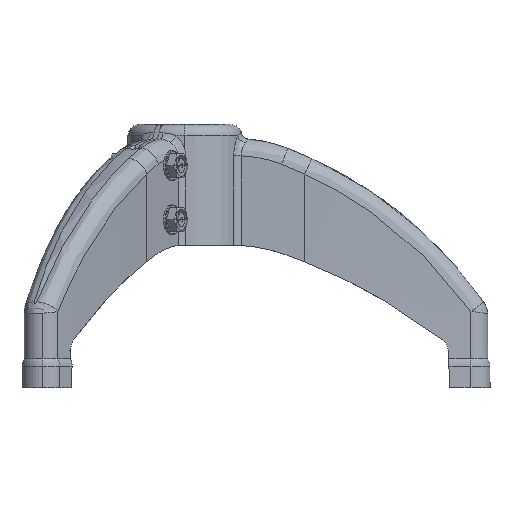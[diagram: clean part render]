
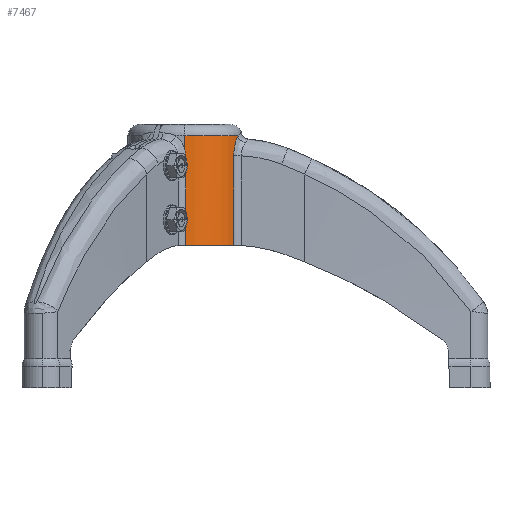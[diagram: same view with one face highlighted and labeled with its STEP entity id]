
A CAD part, left-side view. The second image highlights one B-rep face of the part: STEP entity #7467.
In plain terms, the highlighted cylindrical face has radius 40 mm (diameter 80 mm), a partial arc.
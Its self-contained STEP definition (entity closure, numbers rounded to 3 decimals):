
#123 = DIRECTION ( 'NONE',  ( 0., 0., -1. ) ) ;
#236 = CARTESIAN_POINT ( 'NONE',  ( -14.853, -37.144, 176.575 ) ) ;
#257 = LINE ( 'NONE', #6505, #2036 ) ;
#310 = CARTESIAN_POINT ( 'NONE',  ( -17.151, -36.137, 173.879 ) ) ;
#529 = CARTESIAN_POINT ( 'NONE',  ( 0., 0., 185. ) ) ;
#616 = EDGE_CURVE ( 'NONE', #8768, #4829, #13259, .T. ) ;
#884 = CARTESIAN_POINT ( 'NONE',  ( -17.681, -35.88, 173.055 ) ) ;
#1012 = DIRECTION ( 'NONE',  ( 0., 0., 1. ) ) ;
#1051 = CARTESIAN_POINT ( 'NONE',  ( -40., 0., 185. ) ) ;
#1703 = ORIENTED_EDGE ( 'NONE', *, *, #7142, .T. ) ;
#2036 = VECTOR ( 'NONE', #123, 1000. ) ;
#2131 = VERTEX_POINT ( 'NONE', #6476 ) ;
#2359 = CARTESIAN_POINT ( 'NONE',  ( -14.36, -37.334, 177. ) ) ;
#2386 = ORIENTED_EDGE ( 'NONE', *, *, #4994, .T. ) ;
#2422 = ORIENTED_EDGE ( 'NONE', *, *, #11551, .T. ) ;
#2811 = CIRCLE ( 'NONE', #9119, 40. ) ;
#2908 = CARTESIAN_POINT ( 'NONE',  ( -40., -0.188, 166.283 ) ) ;
#2936 = CARTESIAN_POINT ( 'NONE',  ( -20.435, -34.386, 163.604 ) ) ;
#2961 = EDGE_CURVE ( 'NONE', #4829, #5639, #3892, .T. ) ;
#3007 = CARTESIAN_POINT ( 'NONE',  ( -18.617, -35.405, 171.329 ) ) ;
#3182 = CARTESIAN_POINT ( 'NONE',  ( -39.997, -0.504, 162.927 ) ) ;
#3195 = CARTESIAN_POINT ( 'NONE',  ( -14.36, -37.334, 177. ) ) ;
#3892 = CIRCLE ( 'NONE', #7927, 40. ) ;
#4021 = CARTESIAN_POINT ( 'NONE',  ( -39.997, -0.504, 163.605 ) ) ;
#4048 = CARTESIAN_POINT ( 'NONE',  ( -20.173, -34.541, 166.268 ) ) ;
#4284 = VERTEX_POINT ( 'NONE', #9930 ) ;
#4829 = VERTEX_POINT ( 'NONE', #3195 ) ;
#4994 = EDGE_CURVE ( 'NONE', #2131, #11116, #257, .T. ) ;
#5156 = CARTESIAN_POINT ( 'NONE',  ( -17.595, -35.922, 173.195 ) ) ;
#5303 = CARTESIAN_POINT ( 'NONE',  ( -20.435, -34.386, 162.927 ) ) ;
#5508 = CARTESIAN_POINT ( 'NONE',  ( -15.314, -36.955, 176.124 ) ) ;
#5571 = CARTESIAN_POINT ( 'NONE',  ( -16.18, -36.584, 175.171 ) ) ;
#5639 = VERTEX_POINT ( 'NONE', #8141 ) ;
#6140 = DIRECTION ( 'NONE',  ( 0., 0., -1. ) ) ;
#6148 = CARTESIAN_POINT ( 'NONE',  ( -19.65, -34.841, 168.547 ) ) ;
#6223 = EDGE_LOOP ( 'NONE', ( #7379, #1703, #10495, #2386, #2422, #6634, #7964 ) ) ;
#6328 = CARTESIAN_POINT ( 'NONE',  ( -40., -0.015, 167.069 ) ) ;
#6476 = CARTESIAN_POINT ( 'NONE',  ( -39.997, -0.504, 162.927 ) ) ;
#6505 = CARTESIAN_POINT ( 'NONE',  ( -39.997, -0.504, 185. ) ) ;
#6634 = ORIENTED_EDGE ( 'NONE', *, *, #10657, .T. ) ;
#7039 = EDGE_CURVE ( 'NONE', #4284, #2131, #13843, .T. ) ;
#7142 = EDGE_CURVE ( 'NONE', #5639, #4284, #10824, .T. ) ;
#7179 = DIRECTION ( 'NONE',  ( 1., 0., 0. ) ) ;
#7196 = CARTESIAN_POINT ( 'NONE',  ( -19.904, -34.696, 167.575 ) ) ;
#7250 = VERTEX_POINT ( 'NONE', #8793 ) ;
#7379 = ORIENTED_EDGE ( 'NONE', *, *, #2961, .T. ) ;
#7467 = ADVANCED_FACE ( 'NONE', ( #9262 ), #9338, .T. ) ;
#7565 = CARTESIAN_POINT ( 'NONE',  ( -20.435, -34.386, 162.927 ) ) ;
#7578 = CARTESIAN_POINT ( 'NONE',  ( 0., 0., 177. ) ) ;
#7927 = AXIS2_PLACEMENT_3D ( 'NONE', #7578, #12991, #11870 ) ;
#7964 = ORIENTED_EDGE ( 'NONE', *, *, #616, .T. ) ;
#8141 = CARTESIAN_POINT ( 'NONE',  ( -40., 0., 177. ) ) ;
#8347 = CARTESIAN_POINT ( 'NONE',  ( -19.741, -34.79, 168.224 ) ) ;
#8429 = VECTOR ( 'NONE', #9845, 1000. ) ;
#8564 = CARTESIAN_POINT ( 'NONE',  ( -19.978, -34.654, 167.249 ) ) ;
#8768 = VERTEX_POINT ( 'NONE', #7565 ) ;
#8793 = CARTESIAN_POINT ( 'NONE',  ( -20.435, -34.386, 100. ) ) ;
#9119 = AXIS2_PLACEMENT_3D ( 'NONE', #10656, #1012, #7179 ) ;
#9200 = CARTESIAN_POINT ( 'NONE',  ( -39.997, -0.504, 100. ) ) ;
#9262 = FACE_OUTER_BOUND ( 'NONE', #6223, .T. ) ;
#9338 = CYLINDRICAL_SURFACE ( 'NONE', #12824, 40. ) ;
#9815 = CARTESIAN_POINT ( 'NONE',  ( -16.585, -36.402, 174.669 ) ) ;
#9845 = DIRECTION ( 'NONE',  ( 0., 0., 1. ) ) ;
#9917 = CARTESIAN_POINT ( 'NONE',  ( -20.435, -34.386, 185. ) ) ;
#9930 = CARTESIAN_POINT ( 'NONE',  ( -40., 0., 167.131 ) ) ;
#10181 = DIRECTION ( 'NONE',  ( -1., 0., 0. ) ) ;
#10467 = CARTESIAN_POINT ( 'NONE',  ( -19.357, -35.005, 169.501 ) ) ;
#10495 = ORIENTED_EDGE ( 'NONE', *, *, #7039, .T. ) ;
#10506 = CARTESIAN_POINT ( 'NONE',  ( -40., 0., 167.131 ) ) ;
#10531 = CARTESIAN_POINT ( 'NONE',  ( -17.849, -35.797, 172.773 ) ) ;
#10647 = CARTESIAN_POINT ( 'NONE',  ( -39.999, -0.302, 165.617 ) ) ;
#10656 = CARTESIAN_POINT ( 'NONE',  ( 0., 0., 100. ) ) ;
#10657 = EDGE_CURVE ( 'NONE', #7250, #8768, #11043, .T. ) ;
#10824 = LINE ( 'NONE', #1051, #11061 ) ;
#10875 = CARTESIAN_POINT ( 'NONE',  ( -17.333, -36.05, 173.609 ) ) ;
#11043 = LINE ( 'NONE', #9917, #8429 ) ;
#11061 = VECTOR ( 'NONE', #11998, 1000. ) ;
#11116 = VERTEX_POINT ( 'NONE', #9200 ) ;
#11551 = EDGE_CURVE ( 'NONE', #11116, #7250, #2811, .T. ) ;
#11577 = CARTESIAN_POINT ( 'NONE',  ( -18.33, -35.555, 171.917 ) ) ;
#11757 = CARTESIAN_POINT ( 'NONE',  ( -40., -0.03, 167.007 ) ) ;
#11870 = DIRECTION ( 'NONE',  ( 1., 0., 0. ) ) ;
#11998 = DIRECTION ( 'NONE',  ( 0., 0., -1. ) ) ;
#12518 = CARTESIAN_POINT ( 'NONE',  ( -40., -0.12, 166.616 ) ) ;
#12616 = CARTESIAN_POINT ( 'NONE',  ( -19.131, -35.13, 170.121 ) ) ;
#12750 = CARTESIAN_POINT ( 'NONE',  ( -20.369, -34.426, 164.948 ) ) ;
#12787 = CARTESIAN_POINT ( 'NONE',  ( -39.998, -0.35, 165.283 ) ) ;
#12818 = CARTESIAN_POINT ( 'NONE',  ( -17.931, -35.756, 172.631 ) ) ;
#12824 = AXIS2_PLACEMENT_3D ( 'NONE', #529, #6140, #10181 ) ;
#12991 = DIRECTION ( 'NONE',  ( 0., 0., -1. ) ) ;
#13259 = B_SPLINE_CURVE_WITH_KNOTS ( 'NONE', 3,
 ( #5303, #2936, #12750, #4048, #8564, #7196, #8347, #6148, #10467, #12616, #3007, #11577, #12818, #10531, #884, #5156, #10875, #310, #9815, #5571, #5508, #236, #2359 ),
 .UNSPECIFIED., .F., .F.,
 ( 4, 1, 2, 2, 2, 2, 2, 2, 2, 2, 2, 4 ),
 ( 0., 0.125, 0.25, 0.313, 0.375, 0.5, 0.625, 0.656, 0.687, 0.75, 0.875, 1. ),
 .UNSPECIFIED. ) ;
#13717 = CARTESIAN_POINT ( 'NONE',  ( -39.997, -0.465, 164.278 ) ) ;
#13843 = B_SPLINE_CURVE_WITH_KNOTS ( 'NONE', 3,
 ( #10506, #6328, #11757, #12518, #2908, #10647, #12787, #13717, #4021, #3182 ),
 .UNSPECIFIED., .F., .F.,
 ( 4, 2, 2, 2, 4 ),
 ( 0.738, 0.75, 0.813, 0.875, 1. ),
 .UNSPECIFIED. ) ;
